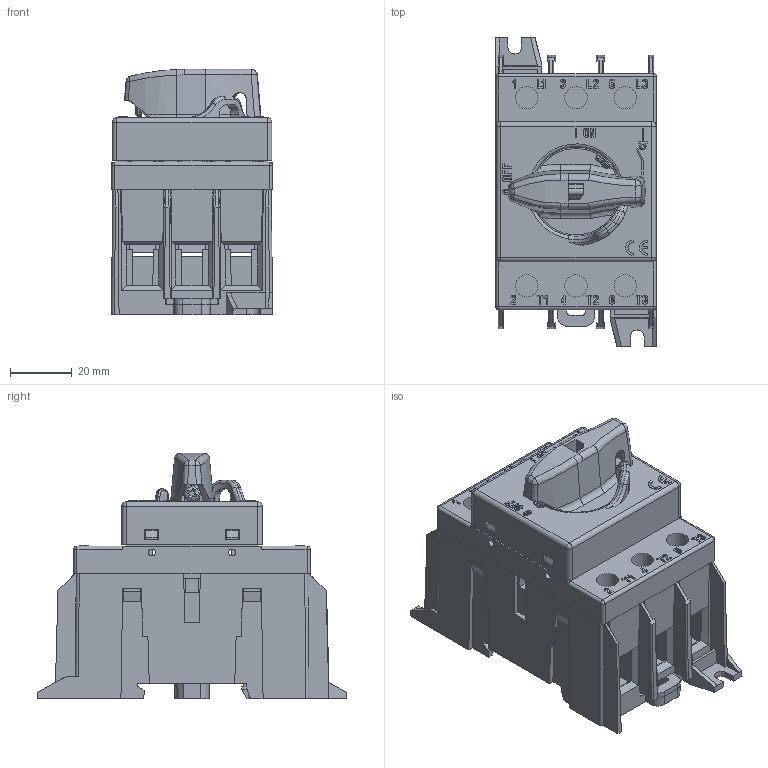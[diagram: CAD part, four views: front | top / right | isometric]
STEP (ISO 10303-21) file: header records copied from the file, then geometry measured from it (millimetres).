
FILE_DESCRIPTION((''),'2;1');
FILE_NAME('Z:\PROGETTI INVENTOR\DIEGO\4 COMMERCIALE - PRODUZIONE - INFORMATIVA\MATERIALE DI COSTRUZIONE\BLOCCHI SOLIDI 2013\BLOCCHI SOLIDI SD2\BLOCCO SD2 3P 2013.stp','2013-02-20T10:21:49',('diego'),(''),'Autodesk Inventor 2013','Autodesk Inventor 2013','');
FILE_SCHEMA(('AUTOMOTIVE_DESIGN { 1 0 10303 214 1 1 1 1 }'));
Length unit declared in the file: millimetre
Products named in the file (1): BLOCCO SD2 3P 2013
Bounding box: 52.2 x 100.03 x 79.55 mm (x, y, z)
Volume: 78428.7 mm3; surface area: 102106.8 mm2
Topology: 1 solids, 1 shells, 1954 faces, 5631 edges, 3658 vertices
Faces by surface type: plane 1572, cylinder 187, cone 104, bspline 43, torus 27, sphere 21
Full cylindrical faces by diameter (mm): 1.2 x1, 2 x11, 2.2 x4, 2.3 x4, 3 x4, 3.2 x1, 7.3 x6, 12.7 x1, 15.2 x1, 24 x1, 29 x1
Entity records: 65920 total; most frequent: CARTESIAN_POINT 14227, ORIENTED_EDGE 10996, DIRECTION 9723, EDGE_CURVE 5498, VECTOR 4557, LINE 4557, VERTEX_POINT 3600, AXIS2_PLACEMENT_3D 2583
